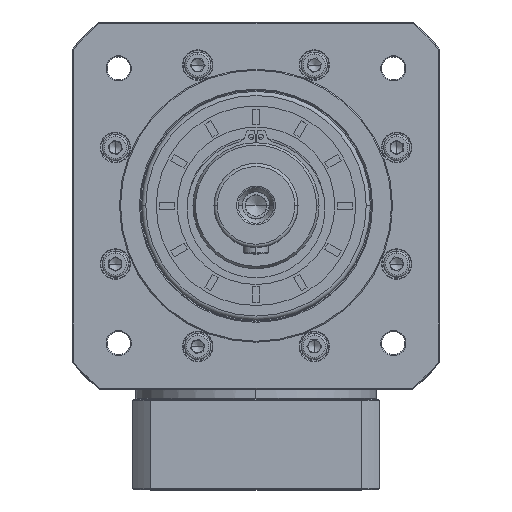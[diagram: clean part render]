
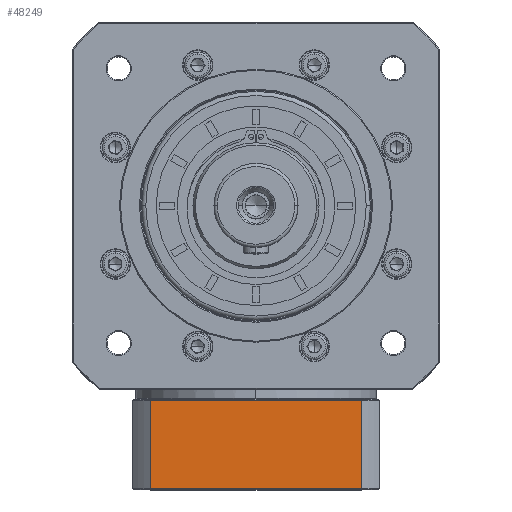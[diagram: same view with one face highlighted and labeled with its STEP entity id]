
A CAD part, top view. The second image highlights one B-rep face of the part: STEP entity #48249.
In plain terms, the highlighted planar face has unit normal (0, 0, 1).
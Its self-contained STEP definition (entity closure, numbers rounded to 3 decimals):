
#9294 = DIRECTION ( 'NONE',  ( 0., 1., 0. ) ) ;
#11072 = VECTOR ( 'NONE', #11244, 1000. ) ;
#11244 = DIRECTION ( 'NONE',  ( 1., 0., 0. ) ) ;
#18133 = CARTESIAN_POINT ( 'NONE',  ( -231.27, -179.107, 27.459 ) ) ;
#19763 = CARTESIAN_POINT ( 'NONE',  ( -222.522, -221.607, 27.459 ) ) ;
#34481 = EDGE_CURVE ( 'NONE', #86288, #150239, #58992, .T. ) ;
#36931 = LINE ( 'NONE', #90268, #138346 ) ;
#48195 = CARTESIAN_POINT ( 'NONE',  ( -222.522, -221.107, 27.459 ) ) ;
#48249 = ADVANCED_FACE ( 'NONE', ( #122043 ), #155532, .F. ) ;
#53076 = VERTEX_POINT ( 'NONE', #136744 ) ;
#55198 = DIRECTION ( 'NONE',  ( -1., 0., 0. ) ) ;
#56256 = DIRECTION ( 'NONE',  ( 0., 0., -1. ) ) ;
#57927 = LINE ( 'NONE', #18133, #11072 ) ;
#58992 = LINE ( 'NONE', #19763, #125391 ) ;
#67255 = CARTESIAN_POINT ( 'NONE',  ( -231.27, -221.607, 27.459 ) ) ;
#68861 = LINE ( 'NONE', #143973, #86429 ) ;
#68880 = ORIENTED_EDGE ( 'NONE', *, *, #34481, .F. ) ;
#73982 = EDGE_CURVE ( 'NONE', #150239, #53076, #57927, .T. ) ;
#86288 = VERTEX_POINT ( 'NONE', #48195 ) ;
#86429 = VECTOR ( 'NONE', #158560, 1000. ) ;
#90268 = CARTESIAN_POINT ( 'NONE',  ( -231.27, -221.107, 27.459 ) ) ;
#97585 = ORIENTED_EDGE ( 'NONE', *, *, #73982, .F. ) ;
#99223 = CARTESIAN_POINT ( 'NONE',  ( -122.018, -221.107, 27.459 ) ) ;
#104417 = DIRECTION ( 'NONE',  ( -1., 0., 0. ) ) ;
#105019 = ORIENTED_EDGE ( 'NONE', *, *, #144481, .F. ) ;
#118685 = AXIS2_PLACEMENT_3D ( 'NONE', #67255, #56256, #104417 ) ;
#122043 = FACE_OUTER_BOUND ( 'NONE', #144717, .T. ) ;
#125391 = VECTOR ( 'NONE', #9294, 1000. ) ;
#126159 = VERTEX_POINT ( 'NONE', #99223 ) ;
#131067 = CARTESIAN_POINT ( 'NONE',  ( -222.522, -179.107, 27.459 ) ) ;
#131684 = EDGE_CURVE ( 'NONE', #126159, #86288, #36931, .T. ) ;
#136744 = CARTESIAN_POINT ( 'NONE',  ( -122.018, -179.107, 27.459 ) ) ;
#138346 = VECTOR ( 'NONE', #55198, 1000. ) ;
#143470 = ORIENTED_EDGE ( 'NONE', *, *, #131684, .F. ) ;
#143973 = CARTESIAN_POINT ( 'NONE',  ( -122.018, 42.788, 27.459 ) ) ;
#144481 = EDGE_CURVE ( 'NONE', #53076, #126159, #68861, .T. ) ;
#144717 = EDGE_LOOP ( 'NONE', ( #105019, #97585, #68880, #143470 ) ) ;
#150239 = VERTEX_POINT ( 'NONE', #131067 ) ;
#155532 = PLANE ( 'NONE',  #118685 ) ;
#158560 = DIRECTION ( 'NONE',  ( 0., -1., 0. ) ) ;
